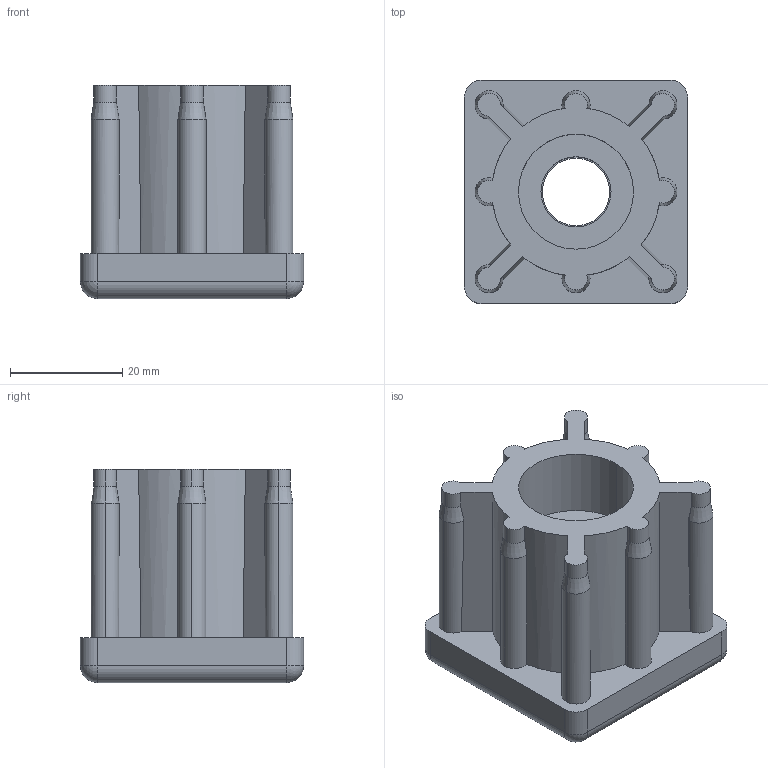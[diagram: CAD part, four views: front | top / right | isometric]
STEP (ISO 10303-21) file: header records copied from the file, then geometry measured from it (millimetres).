
FILE_DESCRIPTION (( 'STEP AP214' ), '1' );
FILE_NAME ('42006840312.STEP', '2020-02-26T10:36:54', ( '' ), ( '' ), 'SwSTEP 2.0', 'SolidWorks 2018', '' );
FILE_SCHEMA (( 'AUTOMOTIVE_DESIGN' ));
Length unit declared in the file: millimetre
Products named in the file (1): 42006840312
Bounding box: 39.8 x 39.8 x 38 mm (x, y, z)
Volume: 32047.7 mm3; surface area: 12414.1 mm2
Topology: 2 solids, 2 shells, 110 faces, 279 edges, 172 vertices
Faces by surface type: cylinder 62, cone 25, plane 19, sphere 4
Entity records: 3384 total; most frequent: CARTESIAN_POINT 720, DIRECTION 577, ORIENTED_EDGE 550, EDGE_CURVE 275, AXIS2_PLACEMENT_3D 239, VERTEX_POINT 172, CIRCLE 128, EDGE_LOOP 117
